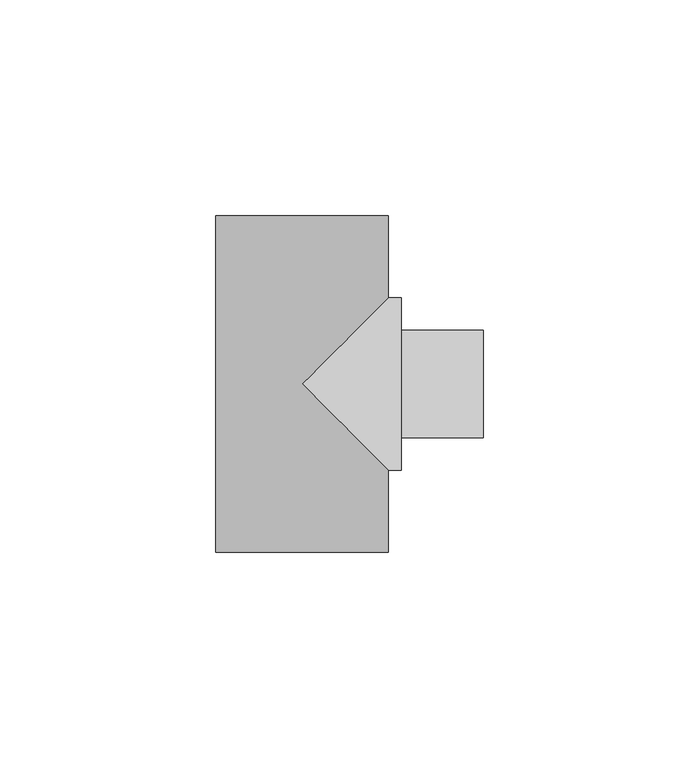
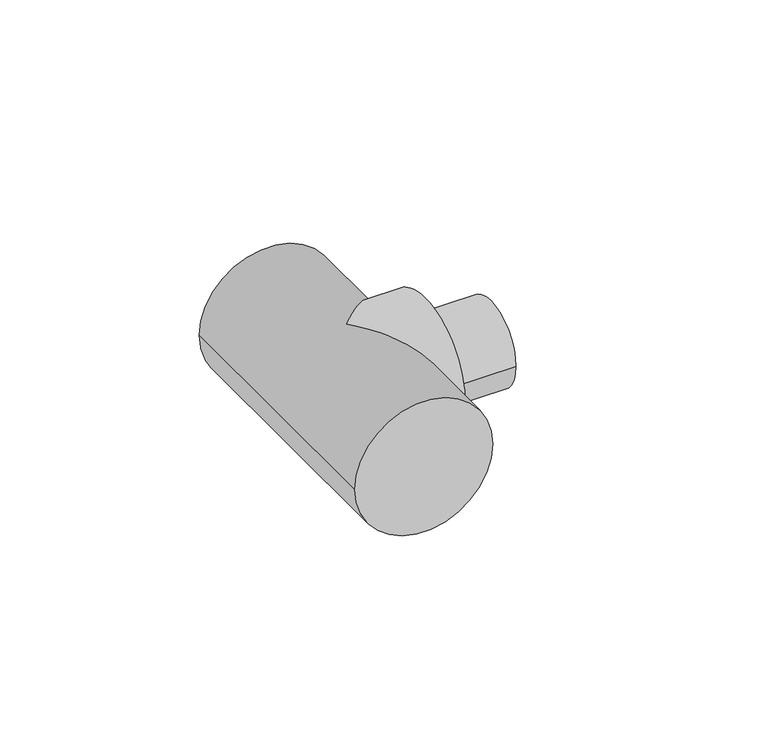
"""IFC4 building model written with IfcOpenShell, lengths in millimetres: pipe fitting geometry, 01051310 : Tes 90º reducidas H/M."""

from ifc_helpers import new_model, si_unit, point, frame, origin, origin_2d, place, context, project, spatial, circle_curve, ellipse_curve, trimmed, segment, composite_curve, outline, extrude, source, transform, mapped, element, save
from ifc_brep_helpers import plane_surface, cylinder_surface, advanced_brep


def pipe_fitting_3a12b9e2(model_context):
    return source(origin(), model_context, "Body", "SolidModel", [
        advanced_brep(
        [(-20.0, 39.0, 0.0), (20.0, 39.0, 0.0), (-20.0, -39.0, 0.0), (20.0, -39.0, 0.0), (20.0, -20.0, 0.0), (0.0, 0.0, 20.0), (20.0, 20.0, 0.0), (0.0, 0.0, -20.0), (23.0, 20.0, 0.0), (23.0, -20.0, 0.0)],
        [
            (0, 1, circle_curve(frame((0.0, 39.0, 0.0), z_axis=(0.0, 1.0, 0.0), x_axis=(1.0, 0.0, 0.0)), 20.0)),
            (1, 0, circle_curve(frame((0.0, 39.0, 0.0), z_axis=(0.0, 1.0, 0.0), x_axis=(1.0, 0.0, 0.0)), 20.0)),
            (2, 3, circle_curve(frame((0.0, -39.0, 0.0), z_axis=(0.0, -1.0, 0.0), x_axis=(1.0, 0.0, 0.0)), 20.0)),
            (3, 2, circle_curve(frame((0.0, -39.0, 0.0), z_axis=(0.0, -1.0, 0.0), x_axis=(1.0, 0.0, 0.0)), 20.0)),
            (0, 2),
            (3, 4),
            (4, 5, ellipse_curve(frame((0.0, 0.0, 0.0), z_axis=(-0.7071067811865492, -0.7071067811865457, 0.0), x_axis=(-0.7071067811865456, 0.7071067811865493, 0.0)), 28.2842712, 20.0)),
            (5, 6, ellipse_curve(frame((0.0, 0.0, 0.0), z_axis=(-0.7071067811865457, 0.7071067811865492, 0.0), x_axis=(0.7071067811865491, 0.7071067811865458, 0.0)), 28.2842712, 20.0)),
            (6, 1),
            (6, 7, ellipse_curve(frame((0.0, 0.0, 0.0), z_axis=(-0.7071067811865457, 0.7071067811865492, 0.0), x_axis=(0.7071067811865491, 0.7071067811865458, 0.0)), 28.2842712, 20.0)),
            (7, 4, ellipse_curve(frame((0.0, 0.0, 0.0), z_axis=(-0.7071067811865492, -0.7071067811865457, 0.0), x_axis=(-0.7071067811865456, 0.7071067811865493, 0.0)), 28.2842712, 20.0)),
            (8, 9, circle_curve(frame((23.0, 0.0, 0.0), z_axis=(1.0, 0.0, 0.0), x_axis=(0.0, -1.0, 0.0)), 20.0)),
            (9, 8, circle_curve(frame((23.0, 0.0, 0.0), z_axis=(1.0, 0.0, 0.0), x_axis=(0.0, -1.0, 0.0)), 20.0)),
            (8, 6),
            (4, 9),
        ],
        [
            plane_surface(frame((0.0, 39.0, 0.0), z_axis=(0.0, 1.0, 0.0), x_axis=(0.0, 0.0, 1.0))),
            plane_surface(frame((0.0, -39.0, 0.0), z_axis=(0.0, -1.0, 0.0), x_axis=(0.0, 0.0, 1.0))),
            cylinder_surface(frame((0.0, 39.0, 0.0), z_axis=(0.0, 1.0, 0.0), x_axis=(1.0, 0.0, 0.0)), 20.0),
            plane_surface(frame((23.0, 0.0, 0.0), z_axis=(1.0, 0.0, 0.0), x_axis=(0.0, 0.0, 1.0))),
            cylinder_surface(frame((23.0, 0.0, 0.0), z_axis=(1.0, 0.0, 0.0), x_axis=(0.0, -1.0, 0.0)), 20.0),
        ],
        [
            (0, [[1, 2]]),
            (1, [[3, 4]]),
            (2, [[-1, 5, -4, 6, 7, 8, 9]]),
            (2, [[-2, -9, 10, 11, -6, -3, -5]]),
            (3, [[12, 13]]),
            (4, [[-12, 14, -8, -7, 15]]),
            (4, [[-13, -15, -11, -10, -14]]),
        ],
    ),
        extrude(outline(composite_curve([segment(trimmed(circle_curve(origin_2d(), 12.5), [point((12.5, 0.0))], [point((-12.5, 0.0))], False, "CARTESIAN"), True, "CONTINUOUS"), segment(trimmed(circle_curve(origin_2d(), 12.5), [point((-12.5, 0.0))], [point((12.5, 0.0))], False, "CARTESIAN"), True, "CONTINUOUS")], self_intersect=False)), frame((23.0, 0.0, 0.0), z_axis=(1.0, 0.0, 0.0), x_axis=(0.0, 1.0, 0.0)), (0.0, 0.0, 1.0), 19.0),
    ])


if __name__ == "__main__":
    model = new_model("IFC4")
    model_context = context("Model", 3, world=origin())
    ifc_project = project(units=[si_unit("LENGTHUNIT", "METRE", prefix="MILLI")], contexts=[model_context])
    site = spatial("IfcSite", under=ifc_project)
    building = spatial("IfcBuilding", under=site)
    placement = place(None, origin())
    pipe_fitting_shape = pipe_fitting_3a12b9e2(model_context)
    element("IfcPipeFitting", 1, ObjectType="01051310 : Tes 90º reducidas H/M", at=placement, inside=building, context=model_context, shape_type="MappedRepresentation", body=[
        mapped(pipe_fitting_shape, transform((0.0, 0.0, 0.0), x_axis=(1.0, 0.0, 0.0), y_axis=(0.0, 1.0, 0.0), z_axis=(0.0, 0.0, 1.0))),
    ])
    save(model, "model.ifc")
